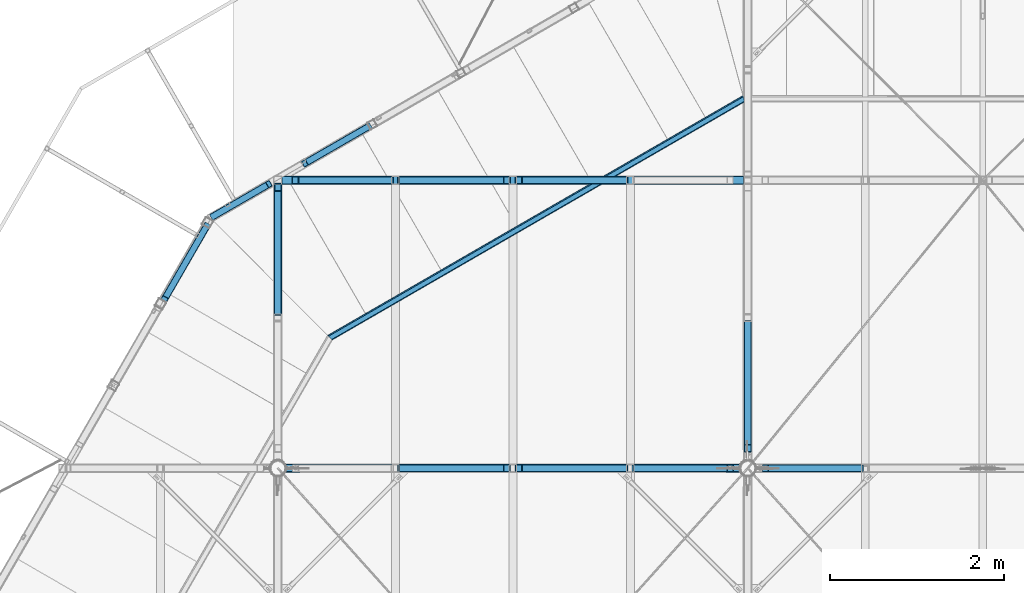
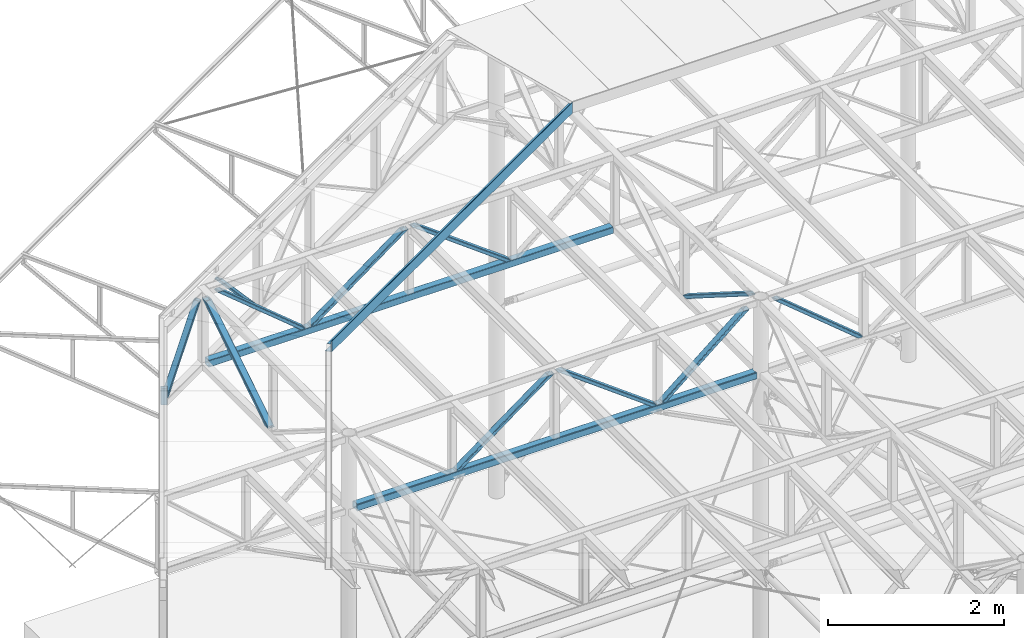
# One storey, part 54 of 132: 16 discrete accessories, 8 elements without a shape of their own.
"""IFC2X3 building model written with IfcOpenShell, lengths in millimetres."""

from ifc_helpers import new_model, si_unit, frame, origin_with_axes, origin_2d_with_axis, place, context, subcontext, project, spatial, hollow_rectangle, circle, l_section, extrude, boolean, clip, halfspace, material, type_object, element, aggregate, save


model = new_model("IFC2X3")

# Units and contexts
model_context = context("Model", 3, precision=1e-05, world=origin_with_axes())
body_context = subcontext(model_context, "Body", "Model", "MODEL_VIEW")
ifc_project = project(units=[si_unit("LENGTHUNIT", "METRE", prefix="MILLI"), si_unit("AREAUNIT", "SQUARE_METRE"), si_unit("VOLUMEUNIT", "CUBIC_METRE"), si_unit("MASSUNIT", "GRAM", prefix="KILO"), si_unit("TIMEUNIT", "SECOND"), si_unit("PLANEANGLEUNIT", "RADIAN"), si_unit("SOLIDANGLEUNIT", "STERADIAN"), si_unit("THERMODYNAMICTEMPERATUREUNIT", "DEGREE_CELSIUS"), si_unit("LUMINOUSINTENSITYUNIT", "LUMEN")], contexts=[model_context])

# Site, building, storey
site_placement = place(None, origin_with_axes())
site = spatial("IfcSite", under=ifc_project, at=site_placement, Name="Budowa", CompositionType="ELEMENT")
building_placement = place(site_placement, origin_with_axes())
building = spatial("IfcBuilding", under=site, at=building_placement, Name="Undefined", CompositionType="ELEMENT")
storey_placement = place(building_placement, origin_with_axes())
storey = spatial("IfcBuildingStorey", under=building, at=storey_placement, Name="Undefined", CompositionType="ELEMENT", Elevation=0.0)

# Assembly, discrete accessory
assembly_1_placement = place(storey_placement, origin_with_axes())
assembly_1 = element("IfcElementAssembly", 1, at=assembly_1_placement, inside=storey, Name="Steel Assembly", AssemblyPlace="NOTDEFINED", PredefinedType="RIGID_FRAME")
ifc_material = material(Name="STEEL/S235")
discrete_accessory_type = type_object("IfcDiscreteAccessoryType", Name="BEAM")
discrete_accessory_1_placement = place(assembly_1_placement, frame((9374.59564679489, 22239.6518544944, 13965.0), z_axis=(-0.500000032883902, 0.866025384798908, 0.0), x_axis=(-0.866025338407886, -0.500000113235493, 0.0)))
discrete_accessory_1 = element("IfcDiscreteAccessory", 2, at=discrete_accessory_1_placement, type_object=discrete_accessory_type, material=ifc_material, Name="BEAM", ObjectType="L50*6", context=body_context, shape_type="Clipping", body=[
    clip(clip(extrude(l_section(Depth=50.0, Width=50.0, Thickness=6.0, FilletRadius=7.0, EdgeRadius=3.5, at=origin_2d_with_axis()), frame((5526.24408815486, 0.0, 0.0), z_axis=(-1.0, 0.0, 0.0), x_axis=(0.0, -1.0, 0.0)), (0.0, 0.0, 1.0), 5576.68), halfspace(frame((5475.81107044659, 0.0, -25.0000000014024), z_axis=(-0.965925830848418, 0.0, 0.258819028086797), x_axis=(0.0, 1.0, 0.0)), True)), halfspace(frame((3.51101334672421e-08, 0.0, -24.9999999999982), z_axis=(-0.965925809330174, 0.0, -0.258819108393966), x_axis=(0.0, 1.0, 0.0)), False)),
])
aggregate(assembly_1, [discrete_accessory_1])

assembly_2_placement = place(storey_placement, origin_with_axes())
assembly_2 = element("IfcElementAssembly", 3, at=assembly_2_placement, inside=storey, Name="Steel Assembly", AssemblyPlace="NOTDEFINED", PredefinedType="RIGID_FRAME")
discrete_accessory_2_placement = place(assembly_2_placement, frame((9370.75718882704, 22241.4771712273, 13955.0), z_axis=(0.0, 0.0, 1.0), x_axis=(-0.866025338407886, -0.500000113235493, 0.0)))
discrete_accessory_2 = element("IfcDiscreteAccessory", 4, at=discrete_accessory_2_placement, type_object=discrete_accessory_type, material=ifc_material, Name="BEAM", ObjectType="L150*75*9", context=body_context, shape_type="Clipping", body=[
    clip(clip(extrude(l_section(Depth=150.0, Width=75.0, Thickness=9.0, FilletRadius=10.5, EdgeRadius=5.5, at=origin_2d_with_axis()), frame((5546.63751112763, 0.0, -1.81898940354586e-12), z_axis=(-1.0, 0.0, 0.0), x_axis=(0.0, -1.0, 0.0)), (0.0, 0.0, 1.0), 5622.29), halfspace(frame((5470.98798456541, 37.5000000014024, -1.81898940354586e-12), z_axis=(-0.965925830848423, -0.258819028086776, 0.0), x_axis=(0.0, 0.0, 1.0)), True)), halfspace(frame((1.9117578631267e-08, 37.5000000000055, -1.81898940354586e-12), z_axis=(-0.965925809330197, 0.258819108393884, 0.0), x_axis=(0.0, 0.0, 1.0)), False)),
])
aggregate(assembly_2, [discrete_accessory_2])

# Assembly, discrete accessories
assembly_3_placement = place(storey_placement, origin_with_axes())
assembly_3 = element("IfcElementAssembly", 5, at=assembly_3_placement, inside=storey, Name="Steel Assembly", AssemblyPlace="NOTDEFINED", PredefinedType="RIGID_FRAME")
discrete_accessory_3_placement = place(assembly_3_placement, frame((3244.96071464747, 20873.8500649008, 12829.9999999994), z_axis=(-0.499969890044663, 0.866042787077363, 0.0), x_axis=(0.550737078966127, 0.317942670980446, 0.771751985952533)))
discrete_accessory_3 = element("IfcDiscreteAccessory", 6, at=discrete_accessory_3_placement, type_object=discrete_accessory_type, material=ifc_material, Name="BEAM", ObjectType="RHS80*40*4", context=body_context, shape_type="Clipping", body=[
    clip(clip(extrude(hollow_rectangle(XDim=40.0, YDim=80.0, WallThickness=4.0, InnerFilletRadius=4.0, OuterFilletRadius=8.0, at=origin_2d_with_axis()), frame((1308.75188651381, 7.64194053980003e-13, -5.26465298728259e-14), z_axis=(-1.0, 0.0, 0.0), x_axis=(0.0, -1.0, 0.0)), (0.0, 0.0, 1.0), 1321.75), halfspace(frame((1257.16546406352, 31.7961818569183, 999.999999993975), z_axis=(-0.771751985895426, 0.635923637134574, -1.24207010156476e-10), x_axis=(-0.635923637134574, -0.771751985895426, -1.02347257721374e-10)), True)), halfspace(frame((38.5875991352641, -31.7961818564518, 1000.0000000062), z_axis=(0.771751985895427, -0.635923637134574, 1.24207727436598e-10), x_axis=(0.635923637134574, 0.771751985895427, 1.02347408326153e-10)), True)),
])
discrete_accessory_4_placement = place(assembly_3_placement, frame((3235.78179049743, 20831.9464929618, 12829.9999999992), z_axis=(-0.86602545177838, 0.499999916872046, 0.0), x_axis=(-0.366880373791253, -0.635455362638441, 0.679408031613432)))
solid_1 = boolean("DIFFERENCE", boolean("DIFFERENCE", extrude(hollow_rectangle(XDim=100.0, YDim=100.0, WallThickness=4.0, InnerFilletRadius=4.0, OuterFilletRadius=8.0, at=origin_2d_with_axis()), frame((659.083833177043, 684.43726692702, 10.738202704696), z_axis=(-0.679408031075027, -0.733760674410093, -2.95362433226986e-10), x_axis=(0.733760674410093, -0.679408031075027, 3.18989805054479e-10)), (0.0, 0.0, 1.0), 900.0), halfspace(frame((659.083832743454, 684.437266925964, 1010.73820270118), z_axis=(-0.679408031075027, -0.733760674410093, -2.95362433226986e-10), x_axis=(0.0, 0.0, -1.0)), True)), halfspace(frame((47.6166042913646, 24.0526604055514, 1010.73820243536), z_axis=(0.679408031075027, 0.733760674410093, 2.95361735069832e-10), x_axis=(0.0, 0.0, -1.0)), True))
solid_2 = boolean("DIFFERENCE", boolean("DIFFERENCE", extrude(hollow_rectangle(XDim=100.0, YDim=100.0, WallThickness=4.0, InnerFilletRadius=4.0, OuterFilletRadius=8.0, at=origin_2d_with_axis()), frame((1451.54536100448, -49.3234072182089, 10.7382030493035), z_axis=(-0.679408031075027, -0.733760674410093, -2.95362433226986e-10), x_axis=(0.733760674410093, -0.679408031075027, 3.18989805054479e-10)), (0.0, 0.0, 1.0), 900.0), halfspace(frame((1451.54536057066, -49.3234072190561, 1010.73820304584), z_axis=(-0.679408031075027, -0.733760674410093, -2.95362433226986e-10), x_axis=(0.0, 0.0, -1.0)), True)), halfspace(frame((840.078132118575, -709.708013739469, 1010.73820278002), z_axis=(0.679408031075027, 0.733760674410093, 2.95361735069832e-10), x_axis=(0.0, 0.0, -1.0)), True))
discrete_accessory_4 = element("IfcDiscreteAccessory", 7, at=discrete_accessory_4_placement, type_object=discrete_accessory_type, material=ifc_material, Name="BEAM", ObjectType="RHS80*40*4", context=body_context, shape_type="CSG", body=[
    boolean("DIFFERENCE", boolean("DIFFERENCE", boolean("DIFFERENCE", boolean("DIFFERENCE", extrude(hollow_rectangle(XDim=40.0, YDim=80.0, WallThickness=4.0, InnerFilletRadius=4.0, OuterFilletRadius=8.0, at=origin_2d_with_axis()), frame((1467.50994166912, 1.65606307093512e-12, 8.39079865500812e-13), z_axis=(-1.0, 0.0, 0.0), x_axis=(0.0, -1.0, 0.0)), (0.0, 0.0, 1.0), 1463.15), solid_1), solid_2), halfspace(frame((1437.89915762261, -36.6880330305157, 1000.00000062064), z_axis=(-0.679408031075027, -0.733760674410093, -2.95362433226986e-10), x_axis=(0.733760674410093, -0.679408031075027, 3.18989805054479e-10)), True)), halfspace(frame((33.9704012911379, 36.6880335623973, 1000.0000000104), z_axis=(0.679408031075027, 0.733760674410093, 2.95361735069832e-10), x_axis=(-0.733760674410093, 0.679408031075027, -3.18989779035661e-10)), True)),
])
aggregate(assembly_3, [discrete_accessory_3, discrete_accessory_4])

# Assembly, discrete accessory
assembly_4_placement = place(storey_placement, origin_with_axes())
assembly_4 = element("IfcElementAssembly", 8, at=assembly_4_placement, inside=storey, Name="Steel Assembly", AssemblyPlace="NOTDEFINED", PredefinedType="RIGID_FRAME")
discrete_accessory_5_placement = place(assembly_4_placement, frame((4293.90600967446, 21479.4102912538, 13830.0000000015), z_axis=(-0.499969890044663, 0.866042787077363, 0.0), x_axis=(0.593830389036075, 0.342820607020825, -0.72790074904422)))
solid_3 = boolean("DIFFERENCE", boolean("DIFFERENCE", extrude(hollow_rectangle(XDim=90.0, YDim=90.0, WallThickness=4.0, InnerFilletRadius=4.0, OuterFilletRadius=8.0, at=origin_2d_with_axis()), frame((682.22123395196, -651.306316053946, 2.31073860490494e-07), z_axis=(0.727900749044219, 0.685682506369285, 2.47249776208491e-10), x_axis=(-0.685682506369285, 0.727900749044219, -2.32911134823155e-10)), (0.0, 0.0, 1.0), 900.0), halfspace(frame((682.221233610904, -651.306316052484, 1000.00000023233), z_axis=(0.727900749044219, 0.685682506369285, 2.47249776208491e-10), x_axis=(0.0, 0.0, -1.0)), True)), halfspace(frame((1337.3319077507, -34.1920603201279, 1000.00000045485), z_axis=(-0.727900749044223, -0.685682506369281, -2.47250682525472e-10), x_axis=(0.0, 0.0, -1.0)), True))
discrete_accessory_5 = element("IfcDiscreteAccessory", 9, at=discrete_accessory_5_placement, type_object=discrete_accessory_type, material=ifc_material, Name="BEAM", ObjectType="RHS80*40*4", context=body_context, shape_type="CSG", body=[
    boolean("DIFFERENCE", boolean("DIFFERENCE", boolean("DIFFERENCE", extrude(hollow_rectangle(XDim=40.0, YDim=80.0, WallThickness=4.0, InnerFilletRadius=4.0, OuterFilletRadius=8.0, at=origin_2d_with_axis()), frame((1373.49673337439, 0.0, -8.42217636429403e-13), z_axis=(-1.0, 0.0, 0.0), x_axis=(0.0, -1.0, 0.0)), (0.0, 0.0, 1.0), 1373.18), solid_3), halfspace(frame((1337.41863297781, -34.284125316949, 999.999999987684), z_axis=(-0.727900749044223, -0.685682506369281, -2.47250682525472e-10), x_axis=(0.685682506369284, -0.72790074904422, 2.32910679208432e-10)), True)), halfspace(frame((36.3950371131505, 34.2841253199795, 1000.00000001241), z_axis=(0.727900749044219, 0.685682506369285, 2.47249776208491e-10), x_axis=(-0.685682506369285, 0.727900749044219, -2.32911134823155e-10)), True)),
])

# Assembly, discrete accessories
assembly_5_placement = place(storey_placement, origin_with_axes())
assembly_5 = element("IfcElementAssembly", 10, at=assembly_5_placement, inside=storey, Name="Steel Assembly", AssemblyPlace="NOTDEFINED", PredefinedType="RIGID_FRAME")
discrete_accessory_6_placement = place(assembly_5_placement, frame((4165.99999993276, 21310.0000000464, 13830.0), z_axis=(0.0, -1.0, 0.0), x_axis=(0.770567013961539, 0.0, -0.637358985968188)))
solid_4 = boolean("DIFFERENCE", boolean("DIFFERENCE", extrude(hollow_rectangle(XDim=90.0, YDim=90.0, WallThickness=6.0, InnerFilletRadius=6.0, OuterFilletRadius=12.0, at=origin_2d_with_axis()), frame((1537.1065565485, 38.528350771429, -6.22094376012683e-10), z_axis=(-0.637358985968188, 0.770567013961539, 0.0), x_axis=(-0.770567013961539, -0.637358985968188, 0.0)), (0.0, 0.0, 1.0), 900.0), halfspace(frame((1537.1065565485, 38.5283507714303, 999.999999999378), z_axis=(-0.637358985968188, 0.770567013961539, 0.0), x_axis=(-0.770567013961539, -0.637358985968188, 0.0)), True)), halfspace(frame((963.483469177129, 732.038663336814, 999.999999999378), z_axis=(0.637358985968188, -0.770567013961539, 0.0), x_axis=(0.770567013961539, 0.637358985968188, 0.0)), True))
discrete_accessory_6 = element("IfcDiscreteAccessory", 11, at=discrete_accessory_6_placement, type_object=discrete_accessory_type, material=ifc_material, Name="BEAM", ObjectType="RHS90*50*5", context=body_context, shape_type="CSG", body=[
    boolean("DIFFERENCE", boolean("DIFFERENCE", boolean("DIFFERENCE", extrude(hollow_rectangle(XDim=50.0, YDim=90.0, WallThickness=5.0, InnerFilletRadius=7.5, OuterFilletRadius=12.5, at=origin_2d_with_axis()), frame((1533.07734352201, 2.27373675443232e-12, 0.0), z_axis=(-1.0, 0.0, 0.0), x_axis=(0.0, -1.0, 0.0)), (0.0, 0.0, 1.0), 1497.18), solid_4), halfspace(frame((1537.1065565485, 38.5283507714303, 999.999999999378), z_axis=(-0.637358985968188, 0.770567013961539, 0.0), x_axis=(-0.770567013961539, -0.637358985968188, 0.0)), True)), halfspace(frame((31.867949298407, -38.5283506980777, 1000.0), z_axis=(0.637358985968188, -0.770567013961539, 0.0), x_axis=(0.770567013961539, 0.637358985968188, 0.0)), True)),
])
discrete_accessory_7_placement = place(assembly_5_placement, frame((6724.99999993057, 21310.0000000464, 13830.0), z_axis=(0.0, -1.0, 0.0), x_axis=(-0.803557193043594, 0.0, -0.595227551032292)))
solid_5 = boolean("DIFFERENCE", boolean("DIFFERENCE", extrude(hollow_rectangle(XDim=90.0, YDim=90.0, WallThickness=6.0, InnerFilletRadius=6.0, OuterFilletRadius=12.0, at=origin_2d_with_axis()), frame((565.466173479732, 763.379333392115, -6.22094376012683e-10), z_axis=(-0.595227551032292, -0.803557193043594, 0.0), x_axis=(0.803557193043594, -0.595227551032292, 0.0)), (0.0, 0.0, 1.0), 900.0), halfspace(frame((565.46617347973, 763.379333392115, 999.999999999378), z_axis=(-0.595227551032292, -0.803557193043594, 0.0), x_axis=(0.803557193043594, -0.595227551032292, 0.0)), True)), halfspace(frame((29.7613775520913, 40.1778596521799, 1000.0), z_axis=(0.595227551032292, 0.803557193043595, 0.0), x_axis=(-0.803557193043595, 0.595227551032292, 0.0)), True))
solid_6 = boolean("DIFFERENCE", boolean("DIFFERENCE", extrude(hollow_rectangle(XDim=90.0, YDim=90.0, WallThickness=6.0, InnerFilletRadius=6.0, OuterFilletRadius=12.0, at=origin_2d_with_axis()), frame((1650.26838408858, -40.1778605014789, -6.22094376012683e-10), z_axis=(-0.595227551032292, -0.803557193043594, 0.0), x_axis=(0.803557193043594, -0.595227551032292, 0.0)), (0.0, 0.0, 1.0), 900.0), halfspace(frame((1650.2683829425, -40.1778596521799, 1000.0), z_axis=(-0.595227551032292, -0.803557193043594, 0.0), x_axis=(0.803557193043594, -0.595227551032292, 0.0)), True)), halfspace(frame((1114.56358815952, -763.379334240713, 999.999999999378), z_axis=(0.595227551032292, 0.803557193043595, 0.0), x_axis=(-0.803557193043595, 0.595227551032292, 0.0)), True))
discrete_accessory_7 = element("IfcDiscreteAccessory", 12, at=discrete_accessory_7_placement, type_object=discrete_accessory_type, material=ifc_material, Name="BEAM", ObjectType="RHS90*50*5", context=body_context, shape_type="CSG", body=[
    boolean("DIFFERENCE", boolean("DIFFERENCE", boolean("DIFFERENCE", boolean("DIFFERENCE", extrude(hollow_rectangle(XDim=50.0, YDim=90.0, WallThickness=5.0, InnerFilletRadius=7.5, OuterFilletRadius=12.5, at=origin_2d_with_axis()), frame((1632.54994793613, 0.0, 0.0), z_axis=(-1.0, 0.0, 0.0), x_axis=(0.0, -1.0, 0.0)), (0.0, 0.0, 1.0), 1585.07), solid_5), solid_6), halfspace(frame((1650.2683829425, -40.1778596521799, 1000.0), z_axis=(-0.595227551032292, -0.803557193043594, 0.0), x_axis=(0.803557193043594, -0.595227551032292, 0.0)), True)), halfspace(frame((29.7613775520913, 40.1778596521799, 1000.0), z_axis=(0.595227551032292, 0.803557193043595, 0.0), x_axis=(-0.803557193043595, 0.595227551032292, 0.0)), True)),
])
discrete_accessory_8_placement = place(assembly_5_placement, frame((6724.99999993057, 21310.0000000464, 13830.0), z_axis=(0.0, -1.0, 0.0), x_axis=(0.803557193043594, 0.0, -0.595227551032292)))
solid_7 = boolean("DIFFERENCE", boolean("DIFFERENCE", extrude(hollow_rectangle(XDim=90.0, YDim=90.0, WallThickness=6.0, InnerFilletRadius=6.0, OuterFilletRadius=12.0, at=origin_2d_with_axis()), frame((1650.26838408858, 40.1778605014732, -6.22094376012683e-10), z_axis=(-0.595227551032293, 0.803557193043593, 0.0), x_axis=(-0.803557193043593, -0.595227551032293, 0.0)), (0.0, 0.0, 1.0), 900.0), halfspace(frame((1650.2683829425, 40.1778596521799, 1000.0), z_axis=(-0.595227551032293, 0.803557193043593, 0.0), x_axis=(-0.803557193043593, -0.595227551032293, 0.0)), True)), halfspace(frame((1114.56358815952, 763.379334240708, 999.999999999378), z_axis=(0.595227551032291, -0.803557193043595, 0.0), x_axis=(0.803557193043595, 0.595227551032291, 0.0)), True))
solid_8 = boolean("DIFFERENCE", boolean("DIFFERENCE", extrude(hollow_rectangle(XDim=90.0, YDim=90.0, WallThickness=6.0, InnerFilletRadius=6.0, OuterFilletRadius=12.0, at=origin_2d_with_axis()), frame((565.46617347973, -763.379333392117, -6.22094376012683e-10), z_axis=(-0.595227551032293, 0.803557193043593, 0.0), x_axis=(-0.803557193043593, -0.595227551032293, 0.0)), (0.0, 0.0, 1.0), 900.0), halfspace(frame((565.46617347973, -763.37933339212, 999.999999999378), z_axis=(-0.595227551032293, 0.803557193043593, 0.0), x_axis=(-0.803557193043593, -0.595227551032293, 0.0)), True)), halfspace(frame((29.7613775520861, -40.1778596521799, 1000.0), z_axis=(0.595227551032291, -0.803557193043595, 0.0), x_axis=(0.803557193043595, 0.595227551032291, 0.0)), True))
discrete_accessory_8 = element("IfcDiscreteAccessory", 13, at=discrete_accessory_8_placement, type_object=discrete_accessory_type, material=ifc_material, Name="BEAM", ObjectType="RHS90*50*5", context=body_context, shape_type="CSG", body=[
    boolean("DIFFERENCE", boolean("DIFFERENCE", boolean("DIFFERENCE", boolean("DIFFERENCE", extrude(hollow_rectangle(XDim=50.0, YDim=90.0, WallThickness=5.0, InnerFilletRadius=7.5, OuterFilletRadius=12.5, at=origin_2d_with_axis()), frame((1632.54994793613, 0.0, 0.0), z_axis=(-1.0, 0.0, 0.0), x_axis=(0.0, -1.0, 0.0)), (0.0, 0.0, 1.0), 1585.07), solid_7), solid_8), halfspace(frame((1650.2683829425, 40.1778596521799, 1000.0), z_axis=(-0.595227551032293, 0.803557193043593, 0.0), x_axis=(-0.803557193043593, -0.595227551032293, 0.0)), True)), halfspace(frame((29.7613775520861, -40.1778596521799, 1000.0), z_axis=(0.595227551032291, -0.803557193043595, 0.0), x_axis=(0.803557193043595, 0.595227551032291, 0.0)), True)),
])
discrete_accessory_9_placement = place(assembly_5_placement, frame((4074.99999993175, 21310.000000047, 12830.0), z_axis=(0.0, -1.0, 0.0), x_axis=(1.0, 0.0, 0.0)))
discrete_accessory_9 = element("IfcDiscreteAccessory", 14, at=discrete_accessory_9_placement, type_object=discrete_accessory_type, material=ifc_material, Name="BEAM", ObjectType="SHS100*8", context=body_context, shape_type="SweptSolid", body=[
    extrude(hollow_rectangle(XDim=100.0, YDim=100.0, WallThickness=8.0, InnerFilletRadius=8.0, OuterFilletRadius=16.0, at=origin_2d_with_axis()), frame((5300.0, 0.0, 0.0), z_axis=(-1.0, 0.0, 0.0), x_axis=(0.0, -1.0, 0.0)), (0.0, 0.0, 1.0), 5300.0),
])
aggregate(assembly_5, [discrete_accessory_6, discrete_accessory_7, discrete_accessory_8, discrete_accessory_9])

# Assembly, discrete accessory
assembly_6_placement = place(storey_placement, origin_with_axes())
assembly_6 = element("IfcElementAssembly", 15, at=assembly_6_placement, inside=storey, Name="Steel Assembly", AssemblyPlace="NOTDEFINED", PredefinedType="RIGID_FRAME")
discrete_accessory_10_placement = place(assembly_6_placement, frame((4024.99999991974, 21309.0000000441, 13830.0), z_axis=(1.0, 0.0, 0.0), x_axis=(0.0, -0.845757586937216, -0.533567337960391)))
solid_9 = boolean("DIFFERENCE", boolean("DIFFERENCE", extrude(hollow_rectangle(XDim=90.0, YDim=90.0, WallThickness=6.0, InnerFilletRadius=6.0, OuterFilletRadius=12.0, at=origin_2d_with_axis()), frame((1843.27053417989, -39.620043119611, 1.45519152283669e-11), z_axis=(-0.533567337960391, -0.845757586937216, 0.0), x_axis=(0.845757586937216, -0.533567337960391, 0.0)), (0.0, 0.0, 1.0), 900.0), halfspace(frame((1843.27053417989, -39.6200431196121, 1000.00000000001), z_axis=(-0.533567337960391, -0.845757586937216, 0.0), x_axis=(0.0, 0.0, -1.0)), True)), halfspace(frame((1363.05993001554, -800.801871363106, 1000.00000000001), z_axis=(0.533567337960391, 0.845757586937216, 0.0), x_axis=(0.0, 0.0, -1.0)), True))
discrete_accessory_10 = element("IfcDiscreteAccessory", 16, at=discrete_accessory_10_placement, type_object=discrete_accessory_type, material=ifc_material, Name="BEAM", ObjectType="RHS90*50*5", context=body_context, shape_type="CSG", body=[
    boolean("DIFFERENCE", boolean("DIFFERENCE", boolean("DIFFERENCE", boolean("DIFFERENCE", extrude(hollow_rectangle(XDim=50.0, YDim=90.0, WallThickness=5.0, InnerFilletRadius=7.5, OuterFilletRadius=12.5, at=origin_2d_with_axis()), frame((1831.21772735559, -1.58496423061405e-13, 0.0), z_axis=(-1.0, 0.0, 0.0), x_axis=(0.0, -1.0, 0.0)), (0.0, 0.0, 1.0), 1788.26), extrude(hollow_rectangle(XDim=100.0, YDim=100.0, WallThickness=8.0, InnerFilletRadius=8.0, OuterFilletRadius=16.0, at=origin_2d_with_axis()), frame((506.127789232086, 803.949918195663, 1.45519152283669e-11), z_axis=(-0.533567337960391, -0.845757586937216, 0.0), x_axis=(0.845757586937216, -0.533567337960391, 0.0)), (0.0, 0.0, 1.0), 900.0)), solid_9), halfspace(frame((1847.49932138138, -42.2878793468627, 1000.0), z_axis=(-0.533567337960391, -0.845757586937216, 0.0), x_axis=(0.845757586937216, -0.533567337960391, 0.0)), True)), halfspace(frame((26.6783668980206, 42.2878793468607, 1000.0), z_axis=(0.533567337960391, 0.845757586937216, 0.0), x_axis=(-0.845757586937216, 0.533567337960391, 0.0)), True)),
])
aggregate(assembly_6, [discrete_accessory_10])

# Discrete accessory
discrete_accessory_11_placement = place(assembly_4_placement, frame((9424.99999994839, 18148.0386350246, 13830.0000000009), z_axis=(1.0, 0.0, 0.0), x_axis=(0.0, 0.845133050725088, -0.534556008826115)))
solid_10 = boolean("DIFFERENCE", boolean("DIFFERENCE", extrude(hollow_rectangle(XDim=90.0, YDim=90.0, WallThickness=6.0, InnerFilletRadius=6.0, OuterFilletRadius=12.0, at=origin_2d_with_axis()), frame((1362.85050194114, 802.855744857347, -4.56930138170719e-09), z_axis=(0.534556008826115, -0.845133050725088, 0.0), x_axis=(-0.845133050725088, -0.534556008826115, 0.0)), (0.0, 0.0, 1.0), 900.0), halfspace(frame((1362.85050194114, 802.855744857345, -1000.00000000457), z_axis=(0.534556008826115, -0.845133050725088, 0.0), x_axis=(0.0, 0.0, 1.0)), True)), halfspace(frame((1843.95090988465, 42.2359992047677, -1000.00000000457), z_axis=(-0.534556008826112, 0.84513305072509, 0.0), x_axis=(0.0, 0.0, 1.0)), True))
discrete_accessory_11 = element("IfcDiscreteAccessory", 17, at=discrete_accessory_11_placement, type_object=discrete_accessory_type, material=ifc_material, Name="BEAM", ObjectType="RHS90*50*5", context=body_context, shape_type="CSG", body=[
    boolean("DIFFERENCE", boolean("DIFFERENCE", boolean("DIFFERENCE", extrude(hollow_rectangle(XDim=50.0, YDim=90.0, WallThickness=5.0, InnerFilletRadius=7.5, OuterFilletRadius=12.5, at=origin_2d_with_axis()), frame((1846.12761391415, 0.0, 0.0), z_axis=(-1.0, 0.0, 0.0), x_axis=(0.0, -1.0, 0.0)), (0.0, 0.0, 1.0), 1821.54), solid_10), halfspace(frame((1843.98356280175, 42.2566525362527, 1000.0), z_axis=(-0.534556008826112, 0.84513305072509, 0.0), x_axis=(-0.845133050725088, -0.534556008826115, 0.0)), True)), halfspace(frame((26.7278004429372, -42.2566525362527, 1000.0), z_axis=(0.534556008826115, -0.845133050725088, 0.0), x_axis=(0.845133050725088, 0.534556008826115, 0.0)), True)),
])

aggregate(assembly_4, [discrete_accessory_5, discrete_accessory_11])

# Assembly, discrete accessory
assembly_7_placement = place(storey_placement, origin_with_axes())
assembly_7 = element("IfcElementAssembly", 18, at=assembly_7_placement, inside=storey, Name="Steel Assembly", AssemblyPlace="NOTDEFINED", PredefinedType="RIGID_FRAME")
discrete_accessory_12_placement = place(assembly_7_placement, frame((9565.99999995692, 18000.0000000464, 13830.0), z_axis=(0.0, -1.0, 0.0), x_axis=(0.770567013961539, 0.0, -0.637358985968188)))
solid_11 = boolean("DIFFERENCE", boolean("DIFFERENCE", extrude(hollow_rectangle(XDim=90.0, YDim=90.0, WallThickness=6.0, InnerFilletRadius=6.0, OuterFilletRadius=12.0, at=origin_2d_with_axis()), frame((1537.1065565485, 38.528350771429, -6.22094376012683e-10), z_axis=(-0.637358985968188, 0.770567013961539, 0.0), x_axis=(-0.770567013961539, -0.637358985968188, 0.0)), (0.0, 0.0, 1.0), 900.0), halfspace(frame((1537.1065565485, 38.5283507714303, 999.999999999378), z_axis=(-0.637358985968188, 0.770567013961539, 0.0), x_axis=(-0.770567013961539, -0.637358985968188, 0.0)), True)), halfspace(frame((963.483469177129, 732.038663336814, 999.999999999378), z_axis=(0.637358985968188, -0.770567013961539, 0.0), x_axis=(0.770567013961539, 0.637358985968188, 0.0)), True))
discrete_accessory_12 = element("IfcDiscreteAccessory", 19, at=discrete_accessory_12_placement, type_object=discrete_accessory_type, material=ifc_material, Name="BEAM", ObjectType="RHS90*50*5", context=body_context, shape_type="CSG", body=[
    boolean("DIFFERENCE", boolean("DIFFERENCE", boolean("DIFFERENCE", extrude(hollow_rectangle(XDim=50.0, YDim=90.0, WallThickness=5.0, InnerFilletRadius=7.5, OuterFilletRadius=12.5, at=origin_2d_with_axis()), frame((1533.07734352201, 2.27373675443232e-12, 0.0), z_axis=(-1.0, 0.0, 0.0), x_axis=(0.0, -1.0, 0.0)), (0.0, 0.0, 1.0), 1497.18), solid_11), halfspace(frame((1537.1065565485, 38.5283507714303, 999.999999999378), z_axis=(-0.637358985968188, 0.770567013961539, 0.0), x_axis=(-0.770567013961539, -0.637358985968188, 0.0)), True)), halfspace(frame((31.867949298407, -38.5283506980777, 1000.0), z_axis=(0.637358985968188, -0.770567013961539, 0.0), x_axis=(0.770567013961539, 0.637358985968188, 0.0)), True)),
])
aggregate(assembly_7, [discrete_accessory_12])

# Assembly, discrete accessories
assembly_8_placement = place(storey_placement, origin_with_axes())
assembly_8 = element("IfcElementAssembly", 20, at=assembly_8_placement, inside=storey, Name="Steel Assembly", AssemblyPlace="NOTDEFINED", PredefinedType="RIGID_FRAME")
discrete_accessory_13_placement = place(assembly_8_placement, frame((9283.99999993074, 18000.0000000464, 13830.0), z_axis=(0.0, -1.0, 0.0), x_axis=(-0.770567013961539, 0.0, -0.637358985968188)))
solid_12 = boolean("DIFFERENCE", boolean("DIFFERENCE", extrude(hollow_rectangle(XDim=90.0, YDim=90.0, WallThickness=6.0, InnerFilletRadius=6.0, OuterFilletRadius=12.0, at=origin_2d_with_axis()), frame((1537.1065565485, -38.5283507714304, -6.22094376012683e-10), z_axis=(-0.637358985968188, -0.770567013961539, 0.0), x_axis=(0.770567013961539, -0.637358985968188, 0.0)), (0.0, 0.0, 1.0), 900.0), halfspace(frame((1537.1065565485, -38.5283507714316, 999.999999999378), z_axis=(-0.637358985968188, -0.770567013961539, 0.0), x_axis=(0.770567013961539, -0.637358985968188, 0.0)), True)), halfspace(frame((963.483469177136, -732.038663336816, 999.999999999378), z_axis=(0.637358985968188, 0.770567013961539, 0.0), x_axis=(-0.770567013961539, 0.637358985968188, 0.0)), True))
discrete_accessory_13 = element("IfcDiscreteAccessory", 21, at=discrete_accessory_13_placement, type_object=discrete_accessory_type, material=ifc_material, Name="BEAM", ObjectType="RHS90*50*5", context=body_context, shape_type="CSG", body=[
    boolean("DIFFERENCE", boolean("DIFFERENCE", boolean("DIFFERENCE", extrude(hollow_rectangle(XDim=50.0, YDim=90.0, WallThickness=5.0, InnerFilletRadius=7.5, OuterFilletRadius=12.5, at=origin_2d_with_axis()), frame((1533.07734352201, 2.27373675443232e-12, 0.0), z_axis=(-1.0, 0.0, 0.0), x_axis=(0.0, -1.0, 0.0)), (0.0, 0.0, 1.0), 1497.18), solid_12), halfspace(frame((1537.1065565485, -38.5283507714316, 999.999999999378), z_axis=(-0.637358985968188, -0.770567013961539, 0.0), x_axis=(0.770567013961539, -0.637358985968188, 0.0)), True)), halfspace(frame((31.867949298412, 38.52835069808, 1000.0), z_axis=(0.637358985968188, 0.770567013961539, 0.0), x_axis=(-0.770567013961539, 0.637358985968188, 0.0)), True)),
])
discrete_accessory_14_placement = place(assembly_8_placement, frame((6724.99999993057, 18000.0000000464, 13830.0), z_axis=(0.0, -1.0, 0.0), x_axis=(-0.803557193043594, 0.0, -0.595227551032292)))
solid_13 = boolean("DIFFERENCE", boolean("DIFFERENCE", extrude(hollow_rectangle(XDim=90.0, YDim=90.0, WallThickness=6.0, InnerFilletRadius=6.0, OuterFilletRadius=12.0, at=origin_2d_with_axis()), frame((565.466173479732, 763.379333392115, -6.22094376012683e-10), z_axis=(-0.595227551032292, -0.803557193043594, 0.0), x_axis=(0.803557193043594, -0.595227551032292, 0.0)), (0.0, 0.0, 1.0), 900.0), halfspace(frame((565.46617347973, 763.379333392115, 999.999999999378), z_axis=(-0.595227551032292, -0.803557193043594, 0.0), x_axis=(0.803557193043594, -0.595227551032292, 0.0)), True)), halfspace(frame((29.7613775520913, 40.1778596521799, 1000.0), z_axis=(0.595227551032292, 0.803557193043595, 0.0), x_axis=(-0.803557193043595, 0.595227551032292, 0.0)), True))
solid_14 = boolean("DIFFERENCE", boolean("DIFFERENCE", extrude(hollow_rectangle(XDim=90.0, YDim=90.0, WallThickness=6.0, InnerFilletRadius=6.0, OuterFilletRadius=12.0, at=origin_2d_with_axis()), frame((1650.26838408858, -40.1778605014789, -6.22094376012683e-10), z_axis=(-0.595227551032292, -0.803557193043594, 0.0), x_axis=(0.803557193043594, -0.595227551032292, 0.0)), (0.0, 0.0, 1.0), 900.0), halfspace(frame((1650.2683829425, -40.1778596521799, 1000.0), z_axis=(-0.595227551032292, -0.803557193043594, 0.0), x_axis=(0.803557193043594, -0.595227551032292, 0.0)), True)), halfspace(frame((1114.56358815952, -763.379334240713, 999.999999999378), z_axis=(0.595227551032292, 0.803557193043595, 0.0), x_axis=(-0.803557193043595, 0.595227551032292, 0.0)), True))
discrete_accessory_14 = element("IfcDiscreteAccessory", 22, at=discrete_accessory_14_placement, type_object=discrete_accessory_type, material=ifc_material, Name="BEAM", ObjectType="RHS90*50*5", context=body_context, shape_type="CSG", body=[
    boolean("DIFFERENCE", boolean("DIFFERENCE", boolean("DIFFERENCE", boolean("DIFFERENCE", extrude(hollow_rectangle(XDim=50.0, YDim=90.0, WallThickness=5.0, InnerFilletRadius=7.5, OuterFilletRadius=12.5, at=origin_2d_with_axis()), frame((1632.54994793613, 0.0, 0.0), z_axis=(-1.0, 0.0, 0.0), x_axis=(0.0, -1.0, 0.0)), (0.0, 0.0, 1.0), 1585.07), solid_13), solid_14), halfspace(frame((1650.2683829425, -40.1778596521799, 1000.0), z_axis=(-0.595227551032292, -0.803557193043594, 0.0), x_axis=(0.803557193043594, -0.595227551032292, 0.0)), True)), halfspace(frame((29.7613775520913, 40.1778596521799, 1000.0), z_axis=(0.595227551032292, 0.803557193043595, 0.0), x_axis=(-0.803557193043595, 0.595227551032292, 0.0)), True)),
])
discrete_accessory_15_placement = place(assembly_8_placement, frame((6724.99999993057, 18000.0000000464, 13830.0), z_axis=(0.0, -1.0, 0.0), x_axis=(0.803557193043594, 0.0, -0.595227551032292)))
solid_15 = boolean("DIFFERENCE", boolean("DIFFERENCE", extrude(hollow_rectangle(XDim=90.0, YDim=90.0, WallThickness=6.0, InnerFilletRadius=6.0, OuterFilletRadius=12.0, at=origin_2d_with_axis()), frame((1650.26838408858, 40.1778605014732, -6.22094376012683e-10), z_axis=(-0.595227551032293, 0.803557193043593, 0.0), x_axis=(-0.803557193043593, -0.595227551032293, 0.0)), (0.0, 0.0, 1.0), 900.0), halfspace(frame((1650.2683829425, 40.1778596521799, 1000.0), z_axis=(-0.595227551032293, 0.803557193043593, 0.0), x_axis=(-0.803557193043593, -0.595227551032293, 0.0)), True)), halfspace(frame((1114.56358815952, 763.379334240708, 999.999999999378), z_axis=(0.595227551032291, -0.803557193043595, 0.0), x_axis=(0.803557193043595, 0.595227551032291, 0.0)), True))
solid_16 = boolean("DIFFERENCE", boolean("DIFFERENCE", extrude(hollow_rectangle(XDim=90.0, YDim=90.0, WallThickness=6.0, InnerFilletRadius=6.0, OuterFilletRadius=12.0, at=origin_2d_with_axis()), frame((565.46617347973, -763.379333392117, -6.22094376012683e-10), z_axis=(-0.595227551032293, 0.803557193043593, 0.0), x_axis=(-0.803557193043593, -0.595227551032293, 0.0)), (0.0, 0.0, 1.0), 900.0), halfspace(frame((565.46617347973, -763.37933339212, 999.999999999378), z_axis=(-0.595227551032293, 0.803557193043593, 0.0), x_axis=(-0.803557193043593, -0.595227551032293, 0.0)), True)), halfspace(frame((29.7613775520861, -40.1778596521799, 1000.0), z_axis=(0.595227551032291, -0.803557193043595, 0.0), x_axis=(0.803557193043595, 0.595227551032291, 0.0)), True))
discrete_accessory_15 = element("IfcDiscreteAccessory", 23, at=discrete_accessory_15_placement, type_object=discrete_accessory_type, material=ifc_material, Name="BEAM", ObjectType="RHS90*50*5", context=body_context, shape_type="CSG", body=[
    boolean("DIFFERENCE", boolean("DIFFERENCE", boolean("DIFFERENCE", boolean("DIFFERENCE", extrude(hollow_rectangle(XDim=50.0, YDim=90.0, WallThickness=5.0, InnerFilletRadius=7.5, OuterFilletRadius=12.5, at=origin_2d_with_axis()), frame((1632.54994793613, 0.0, 0.0), z_axis=(-1.0, 0.0, 0.0), x_axis=(0.0, -1.0, 0.0)), (0.0, 0.0, 1.0), 1585.07), solid_15), solid_16), halfspace(frame((1650.2683829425, 40.1778596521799, 1000.0), z_axis=(-0.595227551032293, 0.803557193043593, 0.0), x_axis=(-0.803557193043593, -0.595227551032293, 0.0)), True)), halfspace(frame((29.7613775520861, -40.1778596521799, 1000.0), z_axis=(0.595227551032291, -0.803557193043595, 0.0), x_axis=(0.803557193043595, 0.595227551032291, 0.0)), True)),
])
discrete_accessory_16_placement = place(assembly_8_placement, frame((4113.99999993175, 18000.000000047, 12830.0), z_axis=(0.0, -1.0, 0.0), x_axis=(1.0, 0.0, 0.0)))
discrete_accessory_16 = element("IfcDiscreteAccessory", 24, at=discrete_accessory_16_placement, type_object=discrete_accessory_type, material=ifc_material, Name="BEAM", ObjectType="SHS100*8", context=body_context, shape_type="CSG", body=[
    boolean("DIFFERENCE", boolean("DIFFERENCE", boolean("DIFFERENCE", boolean("DIFFERENCE", extrude(hollow_rectangle(XDim=100.0, YDim=100.0, WallThickness=8.0, InnerFilletRadius=8.0, OuterFilletRadius=16.0, at=origin_2d_with_axis()), frame((5311.00000001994, 0.0, 0.0), z_axis=(-1.0, 0.0, 0.0), x_axis=(0.0, -1.0, 0.0)), (0.0, 0.0, 1.0), 5400.0), extrude(circle(Radius=89.9, at=origin_2d_with_axis()), frame((-89.0000000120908, 1950.0, 1.09139364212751e-11), z_axis=(0.0, -1.0, 0.0), x_axis=(0.0, 0.0, 1.0)), (0.0, 0.0, 1.0), 2100.0)), extrude(circle(Radius=89.9, at=origin_2d_with_axis()), frame((5311.00000001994, 1950.0, 7.27595761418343e-12), z_axis=(0.0, -1.0, 0.0), x_axis=(0.0, 0.0, 1.0)), (0.0, 0.0, 1.0), 2100.0)), halfspace(frame((5311.00000001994, -5339.0, 7.27595761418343e-12), z_axis=(-1.0, 0.0, 0.0), x_axis=(0.0, 0.0, -1.0)), True)), halfspace(frame((-89.0000000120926, -5339.0, 1.09139364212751e-11), z_axis=(-1.0, 0.0, 0.0), x_axis=(0.0, 0.0, -1.0)), False)),
])
aggregate(assembly_8, [discrete_accessory_13, discrete_accessory_14, discrete_accessory_15, discrete_accessory_16])

save(model, "model.ifc")
